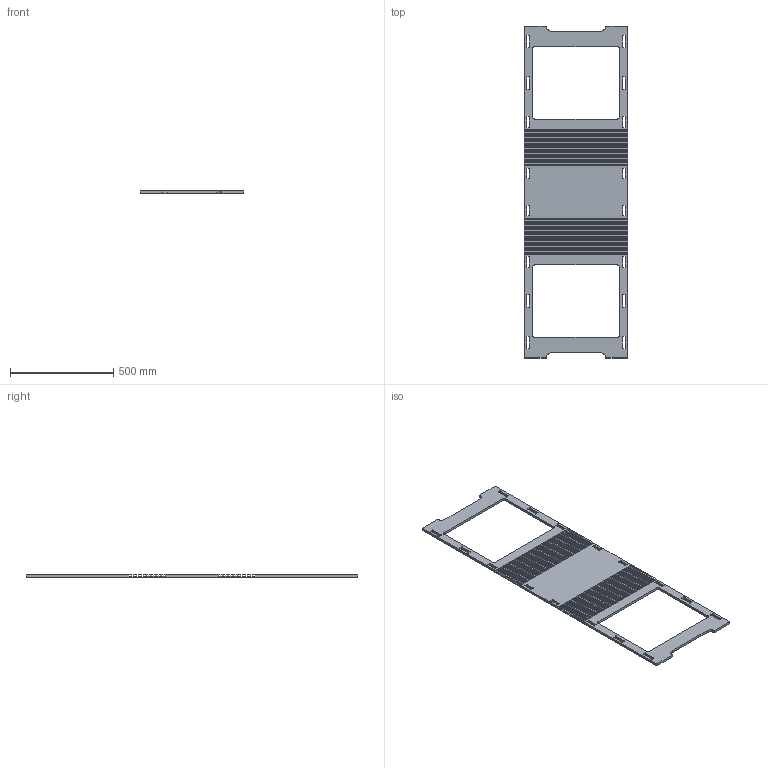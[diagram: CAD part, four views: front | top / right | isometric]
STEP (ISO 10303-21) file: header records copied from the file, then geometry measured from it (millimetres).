
FILE_DESCRIPTION(/* description */ (''),/* implementation_level */ '2;1');
FILE_NAME(/* name */ 'E:\curvepanel2_opened.stp',/* time_stamp */ '2015-03-20T15:37:14+08:00',/* author */ ('s41632'),/* organization */ (''),/* preprocessor_version */ 'ST-DEVELOPER v15.2',/* originating_system */ 'Autodesk Inventor 2014',/* authorisation */ '');
FILE_SCHEMA (('AUTOMOTIVE_DESIGN { 1 0 10303 214 3 1 1 }'));
Length unit declared in the file: millimetre
Products named in the file (1): curvepanel2_opened
Bounding box: 500 x 1606 x 12 mm (x, y, z)
Volume: 4992672 mm3; surface area: 1350511.1 mm2
Topology: 1 solids, 1 shells, 278 faces, 828 edges, 552 vertices
Faces by surface type: plane 202, cylinder 76
Entity records: 9380 total; most frequent: CARTESIAN_POINT 1659, ORIENTED_EDGE 1656, DIRECTION 1538, EDGE_CURVE 828, LINE 676, VECTOR 676, VERTEX_POINT 552, AXIS2_PLACEMENT_3D 431
